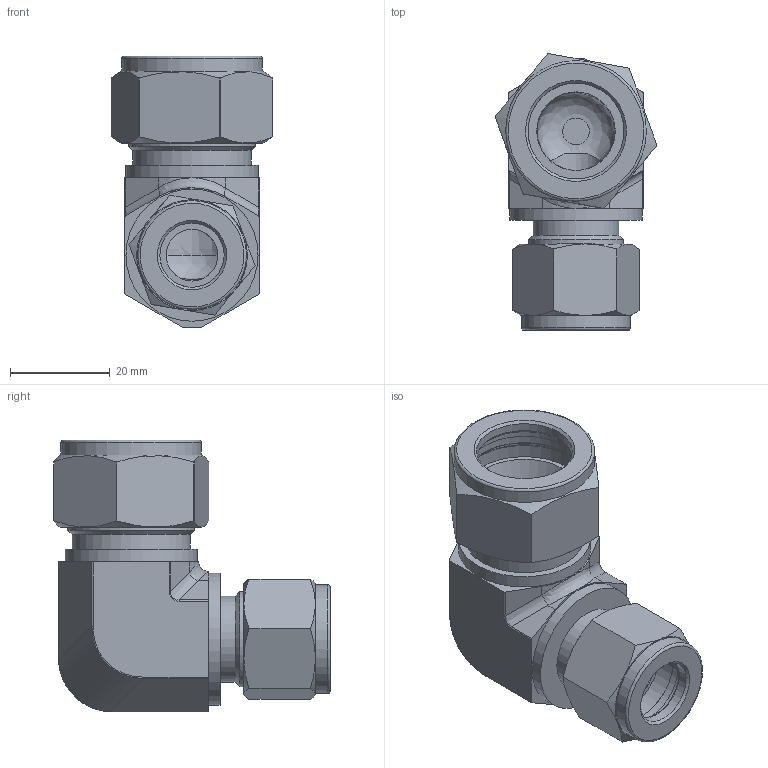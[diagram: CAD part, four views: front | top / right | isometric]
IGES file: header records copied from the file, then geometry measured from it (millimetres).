
Global section: file name: No Iges File Name specified; native system: Autodesk Inventor 2012; preprocessor: AutoDesk Inventor Iges Exporter R2012; author: 硅己绕,,1; organization: 1; date: 20150430.120213; units: millimetre
Bounding box: 32.48 x 55.45 x 54.5 mm (x, y, z)
Volume: 26854.6 mm3; surface area: 14798.4 mm2
Topology: 3 solids, 3 shells, 126 faces, 285 edges, 176 vertices
Faces by surface type: plane 41, cylinder 30, revolution 24, cone 18, bspline 9, torus 4
Full cylindrical faces by diameter (mm): 17.2 x1, 17.3 x1, 19.05 x1, 21.8 x1, 23.7 x1, 23.8 x1, 25.4 x1, 26.5 x2, 28.2 x1
